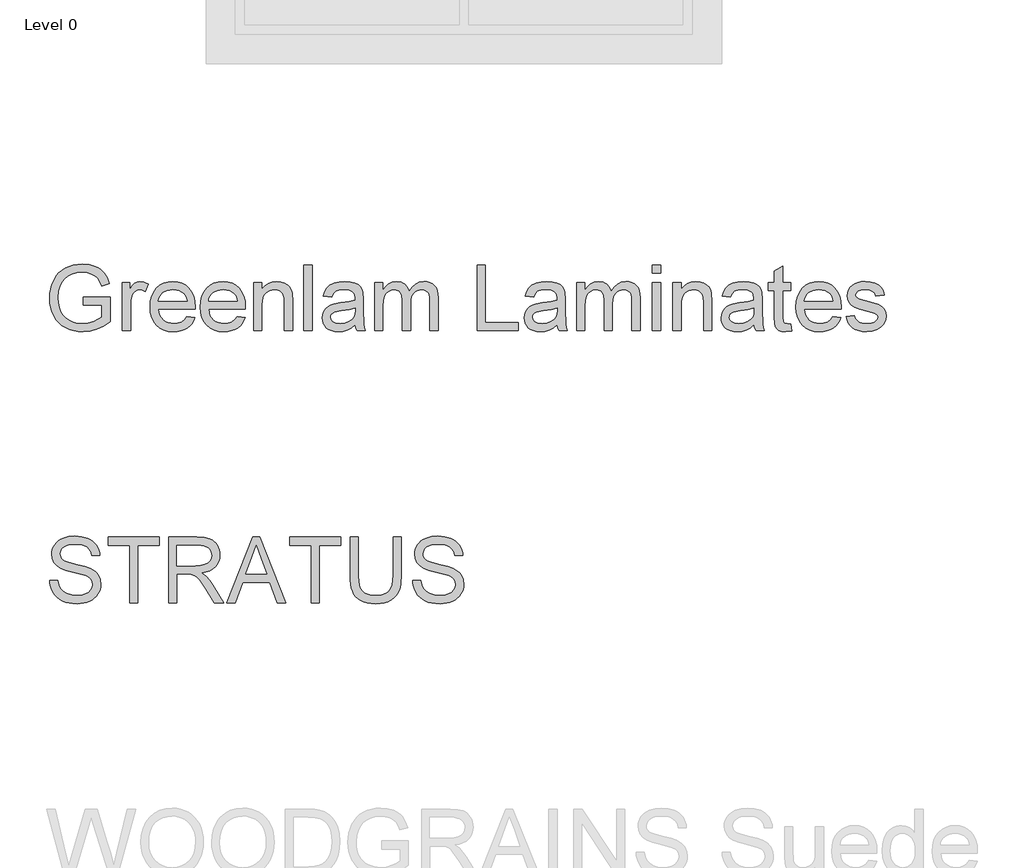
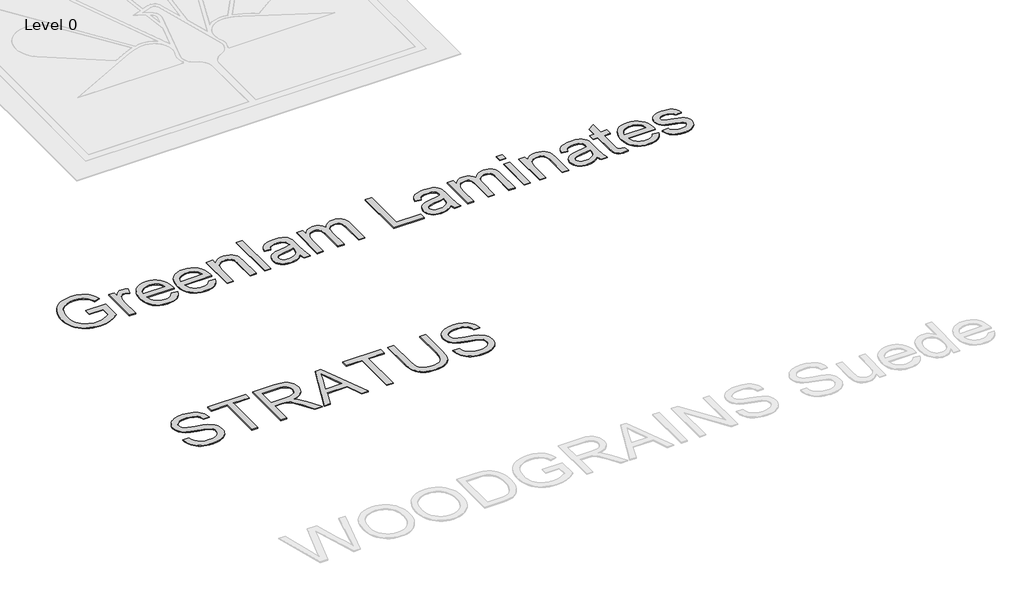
# One storey, part 7 of 7: 2 proxies.
"""IFC4 building model written with IfcOpenShell, lengths in millimetres."""

from ifc_helpers import new_model, si_unit, origin, origin_with_axes, place, context, project, spatial, polyline, outline, extrude, element, save

model = new_model("IFC4")

# Units and contexts
model_context = context("Model", 3, world=origin())
ifc_project = project(units=[si_unit("LENGTHUNIT", "METRE", prefix="MILLI")], contexts=[model_context])

# Site, building, storey
site = spatial("IfcSite", under=ifc_project)
building = spatial("IfcBuilding", under=site)
storey = spatial("IfcBuildingStorey", under=building, Name="Level 0", Elevation=0.0)

# Proxies
placement = place(None, origin())
element("IfcBuildingElementProxy", 1, Name="600mm Arial", ObjectType="600mm Arial", at=placement, inside=storey, context=model_context, shape_type="SweptSolid", body=[
    extrude(outline(polyline([(-10594.9298129, 2995.5724296), (-10594.9298129, 3070.9146622), (-10350.067557, 3070.9146622), (-10350.067557, 2845.6237284), (-10409.5724697, 2804.2370039), (-10470.9535806, 2774.5489269), (-10534.0637368, 2756.6698619), (-10598.7557857, 2750.7101736), (-10642.0325039, 2753.0784139), (-10683.2766741, 2760.183135), (-10722.4882962, 2772.0243367), (-10759.6673704, 2788.6020191), (-10793.6136815, 2809.6678618), (-10823.1270146, 2834.9735446), (-10848.2073696, 2864.5190673), (-10868.8547466, 2898.3044301), (-10884.9817735, 2935.2489794), (-10896.5010785, 2974.2720621), (-10903.4126615, 3015.373678), (-10905.7165225, 3058.5538272), (-10903.4218585, 3101.7385749), (-10896.5378667, 3143.4425975), (-10885.064547, 3183.6658952), (-10869.0018994, 3222.4084678), (-10848.6350324, 3257.9688612), (-10824.2490546, 3288.645621), (-10795.8439661, 3314.4387474), (-10763.4197667, 3335.3482403), (-10727.6800309, 3351.507457), (-10689.3283329, 3363.0497546), (-10648.3646727, 3369.9751331), (-10604.7890504, 3372.2835926), (-10542.7273578, 3366.9309096), (-10486.9196592, 3350.8728605), (-10462.0002525, 3339.1190308), (-10439.9227343, 3325.2682737), (-10420.6871045, 3309.3205892), (-10404.293363, 3291.2759773), (-10377.9346181, 3247.2588966), (-10358.749572, 3191.5799566), (-10428.2056927, 3172.0086345), (-10443.7119188, 3211.7214959), (-10462.5658711, 3241.6854844), (-10487.5082704, 3264.2734389), (-10521.2798375, 3281.8581982), (-10561.5445219, 3293.1705696), (-10605.9662728, 3296.94136), (-10657.9663928, 3292.876264), (-10702.4249319, 3280.6809758), (-10739.1763433, 3261.8822059), (-10768.0550799, 3238.0066644), (-10790.2199701, 3210.2867561), (-10806.8298422, 3179.9548856), (-10824.4881779, 3123.0803291), (-10830.3742899, 3061.6440359), (-10828.6038578, 3024.0235034), (-10823.2925615, 2989.5943472), (-10814.4404009, 2958.3565672), (-10802.0473762, 2930.3101636), (-10786.2744357, 2905.5609024), (-10767.2825277, 2884.2145496), (-10745.0716522, 2866.2711053), (-10719.6418093, 2851.7305695), (-10692.1840169, 2840.496373), (-10663.8892929, 2832.471947), (-10634.7576374, 2827.6572914), (-10604.7890504, 2826.0524062), (-10552.6049894, 2830.8900544), (-10501.7085154, 2845.4029992), (-10457.5074936, 2865.3973856), (-10425.4097896, 2886.679359), (-10425.4097896, 2995.5724296), (-10594.9298129, 2995.5724296)])), origin_with_axes(), (0.0, 0.0, 1.0), 10.0),
    extrude(outline(polyline([(-10237.054208, 2760.1279527), (-10237.054208, 3202.7635693), (-10171.1297545, 3202.7635693), (-10171.1297545, 3137.2805741), (-10146.7759664, 3175.245996), (-10124.3351647, 3197.6132213), (-10101.8207866, 3208.5393166), (-10077.2462693, 3212.1813483), (-10039.7223058, 3206.3688128), (-10001.6097311, 3188.9312062), (-10026.7728596, 3121.3880719), (-10053.2603632, 3132.9763548), (-10079.7478669, 3136.8391157), (-10102.2438509, 3133.1235076), (-10122.3486019, 3121.9766831), (-10138.590592, 3104.244771), (-10149.4982932, 3080.7738997), (-10158.6585549, 3038.6881994), (-10161.7119754, 2992.7765264), (-10161.7119754, 2760.1279527), (-10237.054208, 2760.1279527)])), origin_with_axes(), (0.0, 0.0, 1.0), 10.0),
    extrude(outline(polyline([(-9644.617043, 2891.9768597), (-9570.7463384, 2882.5590807), (-9582.0725053, 2852.9721712), (-9597.3626007, 2826.8985348), (-9616.6166246, 2804.3381714), (-9639.8345771, 2785.2910811), (-9666.7773347, 2770.1619341), (-9697.2057742, 2759.3554005), (-9731.1198956, 2752.8714803), (-9768.519699, 2750.7101736), (-9815.2683035, 2754.4395773), (-9856.9217424, 2765.6277885), (-9893.4800157, 2784.2748071), (-9924.9431233, 2810.3806332), (-9950.2442075, 2843.2186998), (-9968.3164106, 2882.06244), (-9979.1597324, 2926.9118537), (-9982.774173, 2977.766941), (-9979.1229442, 3030.3464752), (-9968.1692578, 3076.6904095), (-9949.9131138, 3116.798744), (-9924.3545121, 3150.6714788), (-9892.9741779, 3177.5820467), (-9857.2528362, 3196.8038809), (-9817.1904869, 3208.3369815), (-9772.7871301, 3212.1813483), (-9729.8139146, 3208.3461785), (-9690.9517803, 3196.8406691), (-9656.2007273, 3177.6648201), (-9625.5607557, 3150.8186315), (-9600.5493785, 3117.0194732), (-9582.6841091, 3076.9847151), (-9571.9649475, 3030.7143572), (-9568.3918936, 2978.2083994), (-9568.833352, 2957.9013133), (-9907.4319404, 2957.9013133), (-9903.0679402, 2927.8361572), (-9894.3905236, 2901.5050034), (-9881.3996907, 2878.9078519), (-9864.0954413, 2860.0447026), (-9843.4342688, 2845.1730729), (-9820.3726662, 2834.5504803), (-9794.9106336, 2828.1769247), (-9767.048171, 2826.0524062), (-9726.9490335, 2829.9887436), (-9693.1774664, 2841.7977556), (-9665.7334695, 2862.2152063), (-9644.617043, 2891.9768597)]), holes=[polyline([(-9907.4319404, 3033.2435459), (-9643.7341262, 3033.2435459), (-9653.9244575, 3073.0483778), (-9662.689246, 3088.7017567), (-9673.9004498, 3101.5224442), (-9694.4466593, 3116.973488), (-9717.82556, 3128.0099478), (-9744.0371522, 3134.6318238), (-9773.0814357, 3136.8391157), (-9799.5735379, 3135.0778807), (-9823.8675452, 3129.7941755), (-9845.9634575, 3120.9880003), (-9865.8612749, 3108.6593549), (-9882.558519, 3093.3784565), (-9895.0527112, 3075.7155222), (-9903.3438517, 3055.670552), (-9907.4319404, 3033.2435459)])]), origin_with_axes(), (0.0, 0.0, 1.0), 10.0),
    extrude(outline(polyline([(-9183.1458683, 2891.9768597), (-9109.2751636, 2882.5590807), (-9120.6013305, 2852.9721712), (-9135.891426, 2826.8985348), (-9155.1454499, 2804.3381714), (-9178.3634023, 2785.2910811), (-9205.3061599, 2770.1619341), (-9235.7345995, 2759.3554005), (-9269.6487209, 2752.8714803), (-9307.0485242, 2750.7101736), (-9353.7971288, 2754.4395773), (-9395.4505677, 2765.6277885), (-9432.0088409, 2784.2748071), (-9463.4719486, 2810.3806332), (-9488.7730328, 2843.2186998), (-9506.8452358, 2882.06244), (-9517.6885576, 2926.9118537), (-9521.3029982, 2977.766941), (-9517.6517694, 3030.3464752), (-9506.698083, 3076.6904095), (-9488.441939, 3116.798744), (-9462.8833374, 3150.6714788), (-9431.5030032, 3177.5820467), (-9395.7816615, 3196.8038809), (-9355.7193122, 3208.3369815), (-9311.3159554, 3212.1813483), (-9268.3427398, 3208.3461785), (-9229.4806055, 3196.8406691), (-9194.7295526, 3177.6648201), (-9164.0895809, 3150.8186315), (-9139.0782038, 3117.0194732), (-9121.2129344, 3076.9847151), (-9110.4937727, 3030.7143572), (-9106.9207189, 2978.2083994), (-9107.3621772, 2957.9013133), (-9445.9607656, 2957.9013133), (-9441.5967654, 2927.8361572), (-9432.9193489, 2901.5050034), (-9419.9285159, 2878.9078519), (-9402.6242666, 2860.0447026), (-9381.963094, 2845.1730729), (-9358.9014915, 2834.5504803), (-9333.4394589, 2828.1769247), (-9305.5769962, 2826.0524062), (-9265.4778588, 2829.9887436), (-9231.7062916, 2841.7977556), (-9204.2622948, 2862.2152063), (-9183.1458683, 2891.9768597)]), holes=[polyline([(-9445.9607656, 3033.2435459), (-9182.2629515, 3033.2435459), (-9192.4532827, 3073.0483778), (-9201.2180713, 3088.7017567), (-9212.4292751, 3101.5224442), (-9232.9754845, 3116.973488), (-9256.3543853, 3128.0099478), (-9282.5659775, 3134.6318238), (-9311.610261, 3136.8391157), (-9338.1023631, 3135.0778807), (-9362.3963704, 3129.7941755), (-9384.4922827, 3120.9880003), (-9404.3901002, 3108.6593549), (-9421.0873442, 3093.3784565), (-9433.5815365, 3075.7155222), (-9441.8726769, 3055.670552), (-9445.9607656, 3033.2435459)])]), origin_with_axes(), (0.0, 0.0, 1.0), 10.0),
    extrude(outline(polyline([(-9031.5784862, 2760.1279527), (-9031.5784862, 3202.7635693), (-8956.2362536, 3202.7635693), (-8956.2362536, 3140.9593941), (-8930.0614497, 3172.1189991), (-8898.6259332, 3194.3758598), (-8861.9297042, 3207.7299762), (-8819.9727626, 3212.1813483), (-8782.8350752, 3208.5944989), (-8748.8243847, 3197.8339505), (-8720.4606829, 3181.2424725), (-8700.2639614, 3160.1628342), (-8686.5603571, 3134.6502179), (-8677.6760069, 3104.7598058), (-8673.7028813, 3031.9191707), (-8673.7028813, 2760.1279527), (-8749.0451139, 2760.1279527), (-8749.0451139, 3021.7656276), (-8751.2156177, 3060.7243309), (-8757.727129, 3088.4258452), (-8769.7384762, 3108.2730788), (-8788.4084874, 3123.6689403), (-8812.3392112, 3133.5465719), (-8840.132696, 3136.8391157), (-8863.0103575, 3134.9905087), (-8884.2601413, 3129.4446876), (-8903.8820472, 3120.2016525), (-8921.8760753, 3107.2614033), (-8936.9086533, 3089.1524121), (-8947.646209, 3064.4031509), (-8954.0887425, 3033.0136196), (-8956.2362536, 2994.9838184), (-8956.2362536, 2760.1279527), (-9031.5784862, 2760.1279527)])), origin_with_axes(), (0.0, 0.0, 1.0), 10.0),
    extrude(outline(polyline([(-8570.1073115, 2760.1279527), (-8570.1073115, 3362.8658136), (-8494.7650789, 3362.8658136), (-8494.7650789, 2760.1279527), (-8570.1073115, 2760.1279527)])), origin_with_axes(), (0.0, 0.0, 1.0), 10.0),
    extrude(outline(polyline([(-8099.2183577, 2816.6346271), (-8135.2156109, 2785.7693277), (-8172.2797219, 2765.5726062), (-8211.2568193, 2754.4257817), (-8252.9930316, 2750.7101736), (-8286.5392711, 2752.9450567), (-8315.9560351, 2759.6497061), (-8341.2433238, 2770.8241217), (-8362.401137, 2786.4683035), (-8379.1075781, 2805.5889702), (-8391.0407503, 2827.1928404), (-8398.2006537, 2851.279914), (-8400.5872881, 2877.8501911), (-8396.9820446, 2909.0833725), (-8386.1663139, 2937.4470743), (-8369.4828654, 2961.727286), (-8348.2744684, 2980.709997), (-8323.3504632, 2995.0573948), (-8295.5201903, 3005.4316671), (-8230.3315007, 3016.7624325), (-8153.297011, 3028.6818092), (-8099.6598161, 3042.661325), (-8099.2183577, 3059.4367439), (-8104.4054938, 3093.0611583), (-8110.889414, 3105.5139638), (-8119.9669022, 3115.0605016), (-8135.6570693, 3124.5886453), (-8154.7685389, 3131.3944622), (-8203.2553859, 3136.8391157), (-8248.1369893, 3133.2154781), (-8279.4805353, 3122.3445651), (-8300.8544792, 3102.2398141), (-8315.8272764, 3070.9146622), (-8391.169509, 3080.3324413), (-8378.0913041, 3121.5352247), (-8358.5751643, 3153.9088403), (-8330.8000736, 3178.6672986), (-8292.9450163, 3197.0246101), (-8246.6470672, 3208.3921638), (-8193.5433012, 3212.1813483), (-8142.610039, 3208.8336222), (-8102.23499, 3198.7904437), (-8071.7927549, 3183.6888878), (-8050.6579343, 3165.1660294), (-8036.6416303, 3142.2653752), (-8027.554945, 3114.030432), (-8023.8761251, 3048.1059785), (-8023.8761251, 2954.3696461), (-8020.0501523, 2823.4772322), (-8014.3847696, 2791.1220108), (-8005.0405669, 2760.1279527), (-8080.3827995, 2760.1279527), (-8092.449329, 2786.3211507), (-8099.2183577, 2816.6346271)]), holes=[polyline([(-8099.2183577, 2967.3190924), (-8149.8389202, 2954.7743163), (-8220.7665689, 2944.2161031), (-8285.5873764, 2932.0024208), (-8302.4547659, 2923.6514995), (-8314.9443596, 2912.1367931), (-8322.6698815, 2898.3412183), (-8325.2450555, 2883.1476919), (-8319.6348551, 2860.7436784), (-8302.8042538, 2842.3863668), (-8275.1211337, 2830.1358964), (-8236.9533767, 2826.0524062), (-8196.4863572, 2830.5589606), (-8160.7282273, 2844.078624), (-8131.739126, 2863.999434), (-8111.5791927, 2887.7094286), (-8102.6396602, 2912.1367931), (-8099.6598161, 2945.9819366), (-8099.2183577, 2967.3190924)])]), origin_with_axes(), (0.0, 0.0, 1.0), 10.0),
    extrude(outline(polyline([(-7920.2805552, 2760.1279527), (-7920.2805552, 3202.7635693), (-7844.9383226, 3202.7635693), (-7844.9383226, 3129.9229342), (-7822.2767917, 3163.3818017), (-7793.1405377, 3189.5933938), (-7758.5228419, 3206.5343597), (-7719.4169858, 3212.1813483), (-7677.5152266, 3206.4239951), (-7659.6821469, 3199.2273036), (-7643.9276004, 3189.1519354), (-7618.8380484, 3161.5056035), (-7602.4305114, 3124.6254335), (-7574.9681204, 3162.9311462), (-7543.6429685, 3190.2923696), (-7508.4550557, 3206.7091037), (-7469.4043819, 3212.1813483), (-7439.2426568, 3209.9050785), (-7412.7689488, 3203.076269), (-7389.9832577, 3191.6949197), (-7370.8855836, 3175.7610308), (-7355.7886262, 3155.0906612), (-7345.0050853, 3129.4998699), (-7338.5349607, 3098.988657), (-7336.3782525, 3063.5570223), (-7336.3782525, 2760.1279527), (-7411.7204851, 2760.1279527), (-7411.7204851, 3031.1834067), (-7413.4679246, 3068.7625525), (-7418.710243, 3094.0912279), (-7428.5326923, 3111.436864), (-7444.0205243, 3125.0668919), (-7463.9413343, 3133.8960598), (-7487.0627177, 3136.8391157), (-7508.413669, 3134.9537205), (-7527.8792251, 3129.2975348), (-7545.4593859, 3119.8705587), (-7561.1541515, 3106.6727921), (-7574.062211, 3089.317959), (-7583.2822535, 3067.4197832), (-7588.814279, 3040.9782648), (-7590.6582875, 3009.9934038), (-7590.6582875, 2760.1279527), (-7666.0005201, 2760.1279527), (-7666.0005201, 3039.5711162), (-7670.3599218, 3082.1718512), (-7675.8091738, 3098.8920879), (-7683.4381267, 3112.5589041), (-7693.5502831, 3123.1814967), (-7706.4491455, 3130.7690628), (-7722.1347141, 3135.3216025), (-7740.6069888, 3136.8391157), (-7769.6328782, 3132.7924138), (-7796.3778992, 3120.6523079), (-7818.4508189, 3100.7131038), (-7833.4604044, 3073.269107), (-7842.068843, 3035.1933205), (-7844.9383226, 2983.3587473), (-7844.9383226, 2760.1279527), (-7920.2805552, 2760.1279527)])), origin_with_axes(), (0.0, 0.0, 1.0), 10.0),
    extrude(outline(polyline([(-6978.5026476, 2760.1279527), (-6978.5026476, 3362.8658136), (-6903.1604149, 3362.8658136), (-6903.1604149, 2835.4701853), (-6601.7914845, 2835.4701853), (-6601.7914845, 2760.1279527), (-6978.5026476, 2760.1279527)])), origin_with_axes(), (0.0, 0.0, 1.0), 10.0),
    extrude(outline(polyline([(-6243.9158796, 2816.6346271), (-6279.9131328, 2785.7693277), (-6316.9772438, 2765.5726062), (-6355.9543412, 2754.4257817), (-6397.6905536, 2750.7101736), (-6431.236793, 2752.9450567), (-6460.653557, 2759.6497061), (-6485.9408457, 2770.8241217), (-6507.0986589, 2786.4683035), (-6523.8051, 2805.5889702), (-6535.7382723, 2827.1928404), (-6542.8981756, 2851.279914), (-6545.28481, 2877.8501911), (-6541.6795665, 2909.0833725), (-6530.8638358, 2937.4470743), (-6514.1803873, 2961.727286), (-6492.9719903, 2980.709997), (-6468.0479852, 2995.0573948), (-6440.2177122, 3005.4316671), (-6375.0290227, 3016.7624325), (-6297.9945329, 3028.6818092), (-6244.357338, 3042.661325), (-6243.9158796, 3059.4367439), (-6249.1030157, 3093.0611583), (-6255.5869359, 3105.5139638), (-6264.6644241, 3115.0605016), (-6280.3545912, 3124.5886453), (-6299.4660609, 3131.3944622), (-6347.9529078, 3136.8391157), (-6392.8345112, 3133.2154781), (-6424.1780572, 3122.3445651), (-6445.5520011, 3102.2398141), (-6460.5247984, 3070.9146622), (-6535.867031, 3080.3324413), (-6522.788826, 3121.5352247), (-6503.2726862, 3153.9088403), (-6475.4975956, 3178.6672986), (-6437.6425383, 3197.0246101), (-6391.3445892, 3208.3921638), (-6338.2408232, 3212.1813483), (-6287.3075609, 3208.8336222), (-6246.932512, 3198.7904437), (-6216.4902768, 3183.6888878), (-6195.3554562, 3165.1660294), (-6181.3391522, 3142.2653752), (-6172.2524669, 3114.030432), (-6168.573647, 3048.1059785), (-6168.573647, 2954.3696461), (-6164.7476742, 2823.4772322), (-6159.0822915, 2791.1220108), (-6149.7380888, 2760.1279527), (-6225.0803214, 2760.1279527), (-6237.1468509, 2786.3211507), (-6243.9158796, 2816.6346271)]), holes=[polyline([(-6243.9158796, 2967.3190924), (-6294.5364421, 2954.7743163), (-6365.4640908, 2944.2161031), (-6430.2848983, 2932.0024208), (-6447.1522878, 2923.6514995), (-6459.6418816, 2912.1367931), (-6467.3674035, 2898.3412183), (-6469.9425774, 2883.1476919), (-6464.332377, 2860.7436784), (-6447.5017757, 2842.3863668), (-6419.8186556, 2830.1358964), (-6381.6508986, 2826.0524062), (-6341.1838791, 2830.5589606), (-6305.4257492, 2844.078624), (-6276.436648, 2863.999434), (-6256.2767146, 2887.7094286), (-6247.3371821, 2912.1367931), (-6244.357338, 2945.9819366), (-6243.9158796, 2967.3190924)])]), origin_with_axes(), (0.0, 0.0, 1.0), 10.0),
    extrude(outline(polyline([(-6064.9780771, 2760.1279527), (-6064.9780771, 3202.7635693), (-5989.6358445, 3202.7635693), (-5989.6358445, 3129.9229342), (-5966.9743136, 3163.3818017), (-5937.8380596, 3189.5933938), (-5903.2203639, 3206.5343597), (-5864.1145078, 3212.1813483), (-5822.2127485, 3206.4239951), (-5804.3796688, 3199.2273036), (-5788.6251224, 3189.1519354), (-5763.5355703, 3161.5056035), (-5747.1280333, 3124.6254335), (-5719.6656424, 3162.9311462), (-5688.3404905, 3190.2923696), (-5653.1525776, 3206.7091037), (-5614.1019038, 3212.1813483), (-5583.9401788, 3209.9050785), (-5557.4664707, 3203.076269), (-5534.6807796, 3191.6949197), (-5515.5831055, 3175.7610308), (-5500.4861482, 3155.0906612), (-5489.7026072, 3129.4998699), (-5483.2324826, 3098.988657), (-5481.0757744, 3063.5570223), (-5481.0757744, 2760.1279527), (-5556.418007, 2760.1279527), (-5556.418007, 3031.1834067), (-5558.1654465, 3068.7625525), (-5563.4077649, 3094.0912279), (-5573.2302142, 3111.436864), (-5588.7180462, 3125.0668919), (-5608.6388562, 3133.8960598), (-5631.7602396, 3136.8391157), (-5653.1111909, 3134.9537205), (-5672.576747, 3129.2975348), (-5690.1569078, 3119.8705587), (-5705.8516734, 3106.6727921), (-5718.759733, 3089.317959), (-5727.9797755, 3067.4197832), (-5733.511801, 3040.9782648), (-5735.3558095, 3009.9934038), (-5735.3558095, 2760.1279527), (-5810.6980421, 2760.1279527), (-5810.6980421, 3039.5711162), (-5815.0574437, 3082.1718512), (-5820.5066958, 3098.8920879), (-5828.1356486, 3112.5589041), (-5838.247805, 3123.1814967), (-5851.1466674, 3130.7690628), (-5866.832236, 3135.3216025), (-5885.3045107, 3136.8391157), (-5914.3304001, 3132.7924138), (-5941.0754212, 3120.6523079), (-5963.1483409, 3100.7131038), (-5978.1579263, 3073.269107), (-5986.766365, 3035.1933205), (-5989.6358445, 2983.3587473), (-5989.6358445, 2760.1279527), (-6064.9780771, 2760.1279527)])), origin_with_axes(), (0.0, 0.0, 1.0), 10.0),
    extrude(outline(polyline([(-5368.0624255, 3287.523581), (-5368.0624255, 3362.8658136), (-5292.7201929, 3362.8658136), (-5292.7201929, 3287.523581), (-5368.0624255, 3287.523581)])), origin_with_axes(), (0.0, 0.0, 1.0), 10.0),
    extrude(outline(polyline([(-5368.0624255, 2760.1279527), (-5368.0624255, 3202.7635693), (-5292.7201929, 3202.7635693), (-5292.7201929, 2760.1279527), (-5368.0624255, 2760.1279527)])), origin_with_axes(), (0.0, 0.0, 1.0), 10.0),
    extrude(outline(polyline([(-5179.7068439, 2760.1279527), (-5179.7068439, 3202.7635693), (-5104.3646113, 3202.7635693), (-5104.3646113, 3140.9593941), (-5078.1898074, 3172.1189991), (-5046.7542909, 3194.3758598), (-5010.0580619, 3207.7299762), (-4968.1011203, 3212.1813483), (-4930.9634329, 3208.5944989), (-4896.9527424, 3197.8339505), (-4868.5890406, 3181.2424725), (-4848.3923191, 3160.1628342), (-4834.6887148, 3134.6502179), (-4825.8043646, 3104.7598058), (-4821.831239, 3031.9191707), (-4821.831239, 2760.1279527), (-4897.1734716, 2760.1279527), (-4897.1734716, 3021.7656276), (-4899.3439754, 3060.7243309), (-4905.8554867, 3088.4258452), (-4917.8668339, 3108.2730788), (-4936.5368451, 3123.6689403), (-4960.4675689, 3133.5465719), (-4988.2610537, 3136.8391157), (-5011.1387152, 3134.9905087), (-5032.388499, 3129.4446876), (-5052.0104049, 3120.2016525), (-5070.004433, 3107.2614033), (-5085.037011, 3089.1524121), (-5095.7745667, 3064.4031509), (-5102.2171002, 3033.0136196), (-5104.3646113, 2994.9838184), (-5104.3646113, 2760.1279527), (-5179.7068439, 2760.1279527)])), origin_with_axes(), (0.0, 0.0, 1.0), 10.0),
    extrude(outline(polyline([(-4435.7022969, 2816.6346271), (-4471.6995501, 2785.7693277), (-4508.7636611, 2765.5726062), (-4547.7407585, 2754.4257817), (-4589.4769709, 2750.7101736), (-4623.0232103, 2752.9450567), (-4652.4399744, 2759.6497061), (-4677.727263, 2770.8241217), (-4698.8850762, 2786.4683035), (-4715.5915174, 2805.5889702), (-4727.5246896, 2827.1928404), (-4734.6845929, 2851.279914), (-4737.0712273, 2877.8501911), (-4733.4659838, 2909.0833725), (-4722.6502531, 2937.4470743), (-4705.9668047, 2961.727286), (-4684.7584076, 2980.709997), (-4659.8344025, 2995.0573948), (-4632.0041295, 3005.4316671), (-4566.81544, 3016.7624325), (-4489.7809502, 3028.6818092), (-4436.1437553, 3042.661325), (-4435.7022969, 3059.4367439), (-4440.889433, 3093.0611583), (-4447.3733532, 3105.5139638), (-4456.4508414, 3115.0605016), (-4472.1410085, 3124.5886453), (-4491.2524782, 3131.3944622), (-4539.7393251, 3136.8391157), (-4584.6209285, 3133.2154781), (-4615.9644745, 3122.3445651), (-4637.3384185, 3102.2398141), (-4652.3112157, 3070.9146622), (-4727.6534483, 3080.3324413), (-4714.5752433, 3121.5352247), (-4695.0591035, 3153.9088403), (-4667.2840129, 3178.6672986), (-4629.4289556, 3197.0246101), (-4583.1310065, 3208.3921638), (-4530.0272405, 3212.1813483), (-4479.0939782, 3208.8336222), (-4438.7189293, 3198.7904437), (-4408.2766942, 3183.6888878), (-4387.1418735, 3165.1660294), (-4373.1255695, 3142.2653752), (-4364.0388842, 3114.030432), (-4360.3600643, 3048.1059785), (-4360.3600643, 2954.3696461), (-4356.5340915, 2823.4772322), (-4350.8687088, 2791.1220108), (-4341.5245061, 2760.1279527), (-4416.8667387, 2760.1279527), (-4428.9332682, 2786.3211507), (-4435.7022969, 2816.6346271)]), holes=[polyline([(-4435.7022969, 2967.3190924), (-4486.3228594, 2954.7743163), (-4557.2505081, 2944.2161031), (-4622.0713157, 2932.0024208), (-4638.9387051, 2923.6514995), (-4651.4282989, 2912.1367931), (-4659.1538208, 2898.3412183), (-4661.7289947, 2883.1476919), (-4656.1187943, 2860.7436784), (-4639.288193, 2842.3863668), (-4611.6050729, 2830.1358964), (-4573.4373159, 2826.0524062), (-4532.9702964, 2830.5589606), (-4497.2121665, 2844.078624), (-4468.2230653, 2863.999434), (-4448.0631319, 2887.7094286), (-4439.1235995, 2912.1367931), (-4436.1437553, 2945.9819366), (-4435.7022969, 2967.3190924)])]), origin_with_axes(), (0.0, 0.0, 1.0), 10.0),
    extrude(outline(polyline([(-4096.6622501, 2822.9621974), (-4087.2444711, 2757.9206607), (-4143.6039927, 2750.7101736), (-4179.7667929, 2753.8371706), (-4206.7325431, 2763.2181614), (-4225.7888304, 2777.6759238), (-4238.2232419, 2796.0332354), (-4245.065847, 2827.5607224), (-4247.3467154, 2881.5290111), (-4247.3467154, 3127.4213367), (-4303.8533898, 3127.4213367), (-4303.8533898, 3202.7635693), (-4247.3467154, 3202.7635693), (-4247.3467154, 3310.3322647), (-4172.0044828, 3354.6252569), (-4172.0044828, 3202.7635693), (-4096.6622501, 3202.7635693), (-4096.6622501, 3127.4213367), (-4172.0044828, 3127.4213367), (-4172.0044828, 2883.7363031), (-4168.0313572, 2844.8879644), (-4155.1554874, 2831.1291777), (-4144.2845744, 2827.3215991), (-4129.4773241, 2826.0524062), (-4096.6622501, 2822.9621974)])), origin_with_axes(), (0.0, 0.0, 1.0), 10.0),
    extrude(outline(polyline([(-3711.4162248, 2891.9768597), (-3637.5455202, 2882.5590807), (-3648.8716871, 2852.9721712), (-3664.1617825, 2826.8985348), (-3683.4158064, 2804.3381714), (-3706.6337589, 2785.2910811), (-3733.5765165, 2770.1619341), (-3764.004956, 2759.3554005), (-3797.9190774, 2752.8714803), (-3835.3188808, 2750.7101736), (-3882.0674853, 2754.4395773), (-3923.7209242, 2765.6277885), (-3960.2791975, 2784.2748071), (-3991.7423051, 2810.3806332), (-4017.0433893, 2843.2186998), (-4035.1155923, 2882.06244), (-4045.9589142, 2926.9118537), (-4049.5733548, 2977.766941), (-4045.922126, 3030.3464752), (-4034.9684396, 3076.6904095), (-4016.7122955, 3116.798744), (-3991.1536939, 3150.6714788), (-3959.7733597, 3177.5820467), (-3924.052018, 3196.8038809), (-3883.9896687, 3208.3369815), (-3839.5863119, 3212.1813483), (-3796.6130964, 3208.3461785), (-3757.7509621, 3196.8406691), (-3722.9999091, 3177.6648201), (-3692.3599374, 3150.8186315), (-3667.3485603, 3117.0194732), (-3649.4832909, 3076.9847151), (-3638.7641293, 3030.7143572), (-3635.1910754, 2978.2083994), (-3635.6325338, 2957.9013133), (-3974.2311221, 2957.9013133), (-3969.867122, 2927.8361572), (-3961.1897054, 2901.5050034), (-3948.1988725, 2878.9078519), (-3930.8946231, 2860.0447026), (-3910.2334506, 2845.1730729), (-3887.171848, 2834.5504803), (-3861.7098154, 2828.1769247), (-3833.8473528, 2826.0524062), (-3793.7482153, 2829.9887436), (-3759.9766482, 2841.7977556), (-3732.5326513, 2862.2152063), (-3711.4162248, 2891.9768597)]), holes=[polyline([(-3974.2311221, 3033.2435459), (-3710.533308, 3033.2435459), (-3720.7236393, 3073.0483778), (-3729.4884278, 3088.7017567), (-3740.6996316, 3101.5224442), (-3761.245841, 3116.973488), (-3784.6247418, 3128.0099478), (-3810.836334, 3134.6318238), (-3839.8806175, 3136.8391157), (-3866.3727197, 3135.0778807), (-3890.6667269, 3129.7941755), (-3912.7626393, 3120.9880003), (-3932.6604567, 3108.6593549), (-3949.3577007, 3093.3784565), (-3961.851893, 3075.7155222), (-3970.1430335, 3055.670552), (-3974.2311221, 3033.2435459)])]), origin_with_axes(), (0.0, 0.0, 1.0), 10.0),
    extrude(outline(polyline([(-3588.10218, 2891.9768597), (-3512.7599474, 2901.3946388), (-3508.2074077, 2884.2145496), (-3500.877359, 2869.168176), (-3490.7698011, 2856.255518), (-3477.8847343, 2845.4765756), (-3462.1853701, 2836.9785015), (-3443.6349205, 2830.9084485), (-3397.9807649, 2826.0524062), (-3352.8784323, 2830.5037783), (-3335.3488552, 2836.0679935), (-3321.1670043, 2843.8578948), (-3302.4050226, 2863.2084877), (-3297.7145271, 2874.0426125), (-3296.1510286, 2885.6492894), (-3297.7237242, 2895.8212266), (-3302.4418108, 2904.8527296), (-3321.3141571, 2919.494433), (-3349.5307061, 2929.0593649), (-3398.8636817, 2940.9787415), (-3467.6208266, 2960.8627633), (-3512.318489, 2977.8405174), (-3541.0316787, 2996.3633759), (-3561.8354056, 3020.8827109), (-3574.4721521, 3049.8350239), (-3578.6844009, 3081.6568165), (-3575.2998866, 3110.8482528), (-3565.1463435, 3137.7956089), (-3549.1434767, 3161.4320271), (-3528.2109912, 3180.6906496), (-3507.4072644, 3192.8123613), (-3480.3127554, 3202.9842985), (-3448.9876035, 3209.8820859), (-3415.4919479, 3212.1813483), (-3366.4532779, 3208.4841343), (-3323.8157547, 3197.3924921), (-3289.5291527, 3179.9916738), (-3265.5432466, 3157.3669311), (-3249.6507444, 3127.844401), (-3239.6443542, 3089.7502203), (-3314.9865868, 3080.3324413), (-3324.4963364, 3104.0424359), (-3343.3135004, 3121.9031067), (-3371.6220199, 3133.1051135), (-3409.605836, 3136.8391157), (-3452.8687586, 3133.2706604), (-3481.710707, 3122.5652943), (-3497.934303, 3107.1142505), (-3503.3421683, 3089.308762), (-3501.0980882, 3077.7204791), (-3494.3658476, 3067.382995), (-3482.8511412, 3058.149157), (-3466.2596632, 3050.7547289), (-3401.3652793, 3034.7150739), (-3290.7799515, 2999.2512495), (-3261.5701211, 2982.2918896), (-3239.423625, 2959.0785357), (-3225.4625033, 2929.5376115), (-3220.808796, 2893.5955405), (-3226.2718437, 2856.439459), (-3242.6609865, 2821.4906695), (-3269.3508253, 2791.4898928), (-3305.7159605, 2769.1778498), (-3349.6410707, 2755.3270926), (-3399.0108345, 2750.7101736), (-3439.5606274, 2752.9358597), (-3474.9784665, 2759.6129179), (-3505.2643517, 2770.7413482), (-3530.4182832, 2786.3211507), (-3550.9644926, 2806.278749), (-3567.4272119, 2830.5405665), (-3579.806441, 2859.1066035), (-3588.10218, 2891.9768597)])), origin_with_axes(), (0.0, 0.0, 1.0), 10.0),
])
element("IfcBuildingElementProxy", 2, Name="600mm Arial", ObjectType="600mm Arial", at=placement, inside=storey, context=model_context, shape_type="SweptSolid", body=[
    extrude(outline(polyline([(-10905.7165225, 467.3190924), (-10830.3742899, 467.3190924), (-10821.729063, 425.5093036), (-10806.0940782, 391.9032833), (-10781.7035019, 365.2318387), (-10746.7915006, 344.2257768), (-10704.1171891, 330.5957488), (-10656.4396825, 326.0524062), (-10614.4643469, 329.4921029), (-10577.7129356, 339.8111928), (-10547.9328881, 356.1451534), (-10526.8716438, 377.6294619), (-10514.3452619, 402.2959497), (-10510.1698013, 428.1764481), (-10513.2967982, 453.3947588), (-10522.6777891, 475.1917671), (-10541.7340764, 493.7882019), (-10573.8869628, 509.4047926), (-10683.5893738, 538.1731646), (-10755.6022743, 557.2110579), (-10801.6794942, 575.3292461), (-10839.1850636, 600.6763156), (-10865.7645378, 631.3944622), (-10881.6018577, 666.8214983), (-10886.8809643, 706.2952364), (-10885.248488, 728.7314396), (-10880.3510589, 750.4226817), (-10872.1886771, 771.3689628), (-10860.7613427, 791.5702829), (-10846.1978142, 810.203506), (-10828.6268504, 826.445496), (-10808.0484513, 840.2962532), (-10784.4626169, 851.7557773), (-10731.4508214, 867.1516388), (-10672.7736431, 872.2835926), (-10609.2036344, 866.9125155), (-10553.5798767, 850.7992841), (-10529.2444827, 838.797134), (-10507.8889329, 824.2749923), (-10489.5132272, 807.2328588), (-10474.1173657, 787.6707338), (-10461.82091, 766.1588341), (-10452.7434218, 743.2673769), (-10446.884901, 718.9963623), (-10444.2453477, 693.3457902), (-10519.5875803, 693.3457902), (-10524.6275637, 717.3868786), (-10533.4199434, 738.30097), (-10545.9647194, 756.0880645), (-10562.2618918, 770.748162), (-10582.6149632, 782.2076861), (-10607.3274362, 790.3930605), (-10636.3993109, 795.3042852), (-10669.8305872, 796.94136), (-10704.3287213, 795.3226793), (-10733.8052661, 790.4666369), (-10758.2602218, 782.373233), (-10777.6935881, 771.0424676), (-10792.5008385, 757.4216367), (-10803.0774458, 742.4580365), (-10809.4234102, 726.1516671), (-10811.5387317, 708.5025284), (-10810.0396126, 693.318199), (-10805.5422552, 679.5502154), (-10798.0466595, 667.1985774), (-10787.5528256, 656.2632851), (-10771.034924, 645.9074069), (-10745.025667, 635.4411642), (-10664.5330864, 614.1775848), (-10581.4653319, 593.9808633), (-10531.2126514, 576.3593157), (-10488.2624284, 549.0256835), (-10471.6571549, 532.9584373), (-10458.2984399, 515.2909045), (-10448.0299337, 496.1150555), (-10440.6952865, 475.5228608), (-10434.8275686, 430.0894344), (-10436.5152273, 406.5219941), (-10441.5782033, 383.6443326), (-10450.0164965, 361.4564497), (-10461.8301071, 339.9583456), (-10476.8121013, 319.9823533), (-10494.7555457, 302.3608057), (-10515.66044, 287.0937029), (-10539.5267845, 274.1810449), (-10565.6602017, 263.9125387), (-10593.3663145, 256.5778914), (-10653.4966266, 250.7101736), (-10692.0368641, 252.2920662), (-10727.3121489, 257.0377439), (-10759.322481, 264.9472068), (-10788.0678604, 276.0204549), (-10813.7230311, 290.2758822), (-10836.4627369, 307.7318828), (-10856.2869779, 328.3884569), (-10873.1957541, 352.2456043), (-10886.816585, 378.5307728), (-10896.77699, 406.4714104), (-10903.0769692, 436.0675169), (-10905.7165225, 467.3190924)])), origin_with_axes(), (0.0, 0.0, 1.0), 10.0),
    extrude(outline(polyline([(-10171.1297545, 260.1279527), (-10171.1297545, 787.523581), (-10368.9031151, 787.523581), (-10368.9031151, 862.8658136), (-9898.0141613, 862.8658136), (-9898.0141613, 787.523581), (-10095.7875219, 787.523581), (-10095.7875219, 260.1279527), (-10171.1297545, 260.1279527)])), origin_with_axes(), (0.0, 0.0, 1.0), 10.0),
    extrude(outline(polyline([(-9813.2541496, 260.1279527), (-9813.2541496, 862.8658136), (-9553.529461, 862.8658136), (-9483.7238524, 858.8007175), (-9432.937743, 846.6054294), (-9413.3388297, 836.9117388), (-9395.8184497, 824.0910513), (-9380.3766029, 808.1433668), (-9367.0132894, 789.0686853), (-9356.2297485, 767.892478), (-9348.5272192, 745.6402158), (-9343.9057016, 722.3118988), (-9342.3651958, 697.9075269), (-9344.9173771, 666.950257), (-9352.5739211, 638.5313729), (-9365.3348278, 612.6508745), (-9383.2000972, 589.308762), (-9406.3996556, 569.2499962), (-9435.1634291, 553.2195382), (-9469.4914177, 541.2173881), (-9509.3836216, 533.2435459), (-9484.5515869, 517.0199499), (-9466.5621573, 501.0170831), (-9435.6968579, 464.4128246), (-9405.4937461, 423.4675585), (-9304.9883851, 260.1279527), (-9392.5442999, 260.1279527), (-9470.9767413, 385.0606782), (-9527.6305685, 467.7605507), (-9548.6918128, 491.8752155), (-9567.4354004, 506.8296186), (-9603.2671067, 521.1770164), (-9646.9714878, 523.8257668), (-9737.911917, 523.8257668), (-9737.911917, 260.1279527), (-9813.2541496, 260.1279527)]), holes=[polyline([(-9737.911917, 599.1679994), (-9569.2748104, 599.1679994), (-9520.8431457, 601.8351439), (-9483.2639999, 609.8365773), (-9454.9738745, 623.7057285), (-9434.409271, 643.9760264), (-9421.882889, 668.4953614), (-9417.7074284, 695.1116238), (-9419.6985897, 714.3794433), (-9425.6720736, 731.8630351), (-9435.6278801, 747.5623992), (-9449.5660092, 761.4775357), (-9467.8083576, 772.8726805), (-9490.6768221, 781.0120696), (-9518.1714027, 785.8957031), (-9550.2920994, 787.523581), (-9737.911917, 787.523581), (-9737.911917, 599.1679994)])]), origin_with_axes(), (0.0, 0.0, 1.0), 10.0),
    extrude(outline(polyline([(-9280.7081734, 260.1279527), (-9040.1133485, 862.8658136), (-8975.9547286, 862.8658136), (-8735.3599037, 260.1279527), (-8814.9695675, 260.1279527), (-8883.9842298, 448.4835342), (-9132.2310001, 448.4835342), (-9201.0985096, 260.1279527), (-9280.7081734, 260.1279527)]), holes=[polyline([(-9104.5662741, 523.8257668), (-8911.501803, 523.8257668), (-8965.8011855, 672.0086345), (-9008.0340386, 787.523581), (-9045.5580021, 684.9580807), (-9104.5662741, 523.8257668)])]), origin_with_axes(), (0.0, 0.0, 1.0), 10.0),
    extrude(outline(polyline([(-8504.182858, 260.1279527), (-8504.182858, 787.523581), (-8701.9562186, 787.523581), (-8701.9562186, 862.8658136), (-8231.0672647, 862.8658136), (-8231.0672647, 787.523581), (-8428.8406253, 787.523581), (-8428.8406253, 260.1279527), (-8504.182858, 260.1279527)])), origin_with_axes(), (0.0, 0.0, 1.0), 10.0),
    extrude(outline(polyline([(-7750.7605318, 862.8658136), (-7675.4182992, 862.8658136), (-7675.4182992, 515.1437517), (-7680.531859, 433.7130721), (-7686.9238086, 400.0196799), (-7695.8725382, 371.007586), (-7708.1505997, 345.5777431), (-7724.5305456, 322.6311037), (-7745.0123757, 302.1676677), (-7769.59609, 284.1874352), (-7798.3092797, 269.5411332), (-7831.179536, 259.079489), (-7868.2068588, 252.8025024), (-7909.3912482, 250.7101736), (-7949.5593635, 252.5311895), (-7985.8923091, 257.9942371), (-8018.3900848, 267.0993165), (-8047.0526907, 279.8464276), (-8071.8847254, 296.047031), (-8092.8907873, 315.512587), (-8110.0708765, 338.2430958), (-8123.4249929, 364.2385573), (-8133.4359817, 394.3910853), (-8140.586688, 429.5927937), (-8144.8771118, 469.8436825), (-8146.307253, 515.1437517), (-8146.307253, 862.8658136), (-8070.9650204, 862.8658136), (-8070.9650204, 517.7925021), (-8067.2494123, 450.0838209), (-8056.1025878, 402.9397432), (-8047.3377993, 385.5619175), (-8035.9058663, 370.2902161), (-8021.8067888, 357.1246392), (-8005.0405669, 346.0651867), (-7964.7942766, 331.0556013), (-7916.4545825, 326.0524062), (-7874.9299023, 328.5264126), (-7839.8247629, 335.9484319), (-7811.1391643, 348.318464), (-7788.8731065, 365.6365089), (-7772.1988551, 389.990297), (-7760.2886755, 423.4675585), (-7753.1425678, 466.0682936), (-7750.7605318, 517.7925021), (-7750.7605318, 862.8658136)])), origin_with_axes(), (0.0, 0.0, 1.0), 10.0),
    extrude(outline(polyline([(-7571.8227294, 467.3190924), (-7496.4804968, 467.3190924), (-7487.8352699, 425.5093036), (-7472.2002851, 391.9032833), (-7447.8097088, 365.2318387), (-7412.8977075, 344.2257768), (-7370.223396, 330.5957488), (-7322.5458894, 326.0524062), (-7280.5705538, 329.4921029), (-7243.8191425, 339.8111928), (-7214.039095, 356.1451534), (-7192.9778507, 377.6294619), (-7180.4514688, 402.2959497), (-7176.2760082, 428.1764481), (-7179.4030051, 453.3947588), (-7188.783996, 475.1917671), (-7207.8402834, 493.7882019), (-7239.9931697, 509.4047926), (-7349.6955807, 538.1731646), (-7421.7084812, 557.2110579), (-7467.7857011, 575.3292461), (-7505.2912706, 600.6763156), (-7531.8707447, 631.3944622), (-7547.7080646, 666.8214983), (-7552.9871712, 706.2952364), (-7551.3546949, 728.7314396), (-7546.4572658, 750.4226817), (-7538.294884, 771.3689628), (-7526.8675496, 791.5702829), (-7512.3040211, 810.203506), (-7494.7330573, 826.445496), (-7474.1546582, 840.2962532), (-7450.5688238, 851.7557773), (-7397.5570283, 867.1516388), (-7338.87985, 872.2835926), (-7275.3098413, 866.9125155), (-7219.6860836, 850.7992841), (-7195.3506896, 838.797134), (-7173.9951398, 824.2749923), (-7155.6194341, 807.2328588), (-7140.2235726, 787.6707338), (-7127.927117, 766.1588341), (-7118.8496287, 743.2673769), (-7112.9911079, 718.9963623), (-7110.3515546, 693.3457902), (-7185.6937872, 693.3457902), (-7190.7337706, 717.3868786), (-7199.5261503, 738.30097), (-7212.0709263, 756.0880645), (-7228.3680987, 770.748162), (-7248.7211701, 782.2076861), (-7273.4336431, 790.3930605), (-7302.5055178, 795.3042852), (-7335.9367941, 796.94136), (-7370.4349282, 795.3226793), (-7399.911473, 790.4666369), (-7424.3664287, 782.373233), (-7443.7997951, 771.0424676), (-7458.6070454, 757.4216367), (-7469.1836527, 742.4580365), (-7475.5296171, 726.1516671), (-7477.6449386, 708.5025284), (-7476.1458195, 693.318199), (-7471.6484621, 679.5502154), (-7464.1528664, 667.1985774), (-7453.6590325, 656.2632851), (-7437.1411309, 645.9074069), (-7411.1318739, 635.4411642), (-7330.6392933, 614.1775848), (-7247.5715388, 593.9808633), (-7197.3188583, 576.3593157), (-7154.3686354, 549.0256835), (-7137.7633618, 532.9584373), (-7124.4046468, 515.2909045), (-7114.1361407, 496.1150555), (-7106.8014934, 475.5228608), (-7100.9337756, 430.0894344), (-7102.6214342, 406.5219941), (-7107.6844102, 383.6443326), (-7116.1227034, 361.4564497), (-7127.936314, 339.9583456), (-7142.9183083, 319.9823533), (-7160.8617526, 302.3608057), (-7181.7666469, 287.0937029), (-7205.6329914, 274.1810449), (-7231.7664086, 263.9125387), (-7259.4725214, 256.5778914), (-7319.6028335, 250.7101736), (-7358.143071, 252.2920662), (-7393.4183558, 257.0377439), (-7425.4286879, 264.9472068), (-7454.1740673, 276.0204549), (-7479.829238, 290.2758822), (-7502.5689438, 307.7318828), (-7522.3931848, 328.3884569), (-7539.301961, 352.2456043), (-7552.9227919, 378.5307728), (-7562.8831969, 406.4714104), (-7569.1831761, 436.0675169), (-7571.8227294, 467.3190924)])), origin_with_axes(), (0.0, 0.0, 1.0), 10.0),
])

save(model, "model.ifc")
